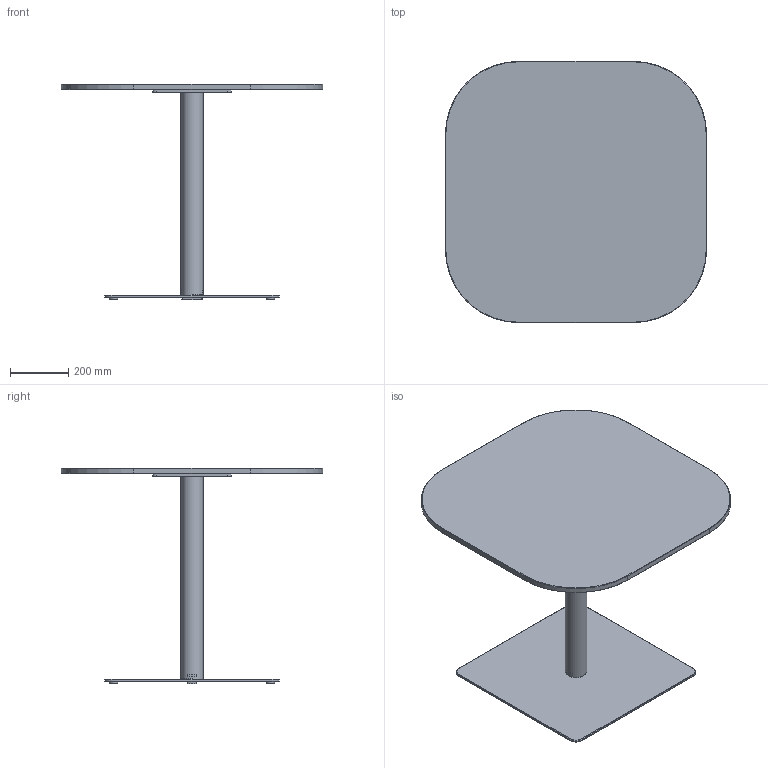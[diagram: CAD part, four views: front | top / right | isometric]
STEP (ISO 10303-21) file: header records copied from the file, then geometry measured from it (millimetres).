
FILE_DESCRIPTION( ('This file contains a STEP AP42 implementation' ,'as created by ZW3D STEP Interface translator.') ,'2;1' );
FILE_NAME( 'Henri - B_Carré - F2 - M1 - 900 x 900 x 750.stp' ,'24 912.163638', (''), ('ZWCAD Software Co.'), 'Version 1.0', 'ZW3D to STEP translator', '' );
FILE_SCHEMA(('AUTOMOTIVE_DESIGN { 1 0 10303 214 1 1 1 1 }'));
Length unit declared in the file: millimetre
Products named in the file (14): 0; PIED BISTROT PARAMETRIQUE_; COLONNE ACIER Ø76 V.02_; TUB-D076-02_; PLA-R76B-01_; CROIX ACIER 370 V.02_; CRX-X370-02_; SOCLE ACIER L 600x600 V.02_; SCL-R600-02_; PLA-R30A-01_; PLA-R30A-01; WUERTH 0276063020 Euro-screw 6.3x2 Verzinkt_; PLATEAU BISTROT PARAMETRIQUE_; insert_m6_13_
Assembly tree (22 placements, depth 3):
  0
  PIED BISTROT PARAMETRIQUE_
    COLONNE ACIER Ø76 V.02_
      TUB-D076-02_
      PLA-R76B-01_  x2
    CROIX ACIER 370 V.02_
      CRX-X370-02_
    SOCLE ACIER L 600x600 V.02_
      SCL-R600-02_
      PLA-R30A-01_
      PLA-R30A-01  x3
    WUERTH 0276063020 Euro-screw 6.3x2 Verzinkt_
    PLATEAU BISTROT PARAMETRIQUE_
      insert_m6_13_  x8
Bounding box: 900 x 900 x 744 mm (x, y, z)
Volume: 18931089.9 mm3; surface area: 2826941 mm2
Topology: 19 solids, 19 shells, 537 faces, 1310 edges, 822 vertices
Faces by surface type: plane 262, bspline 121, cylinder 98, cone 55, torus 1
Full cylindrical faces by diameter (mm): 4.88 x1, 6 x8, 6.3 x1, 8 x45, 12 x2, 14 x2, 30 x4, 72 x1, 76 x1
Entity records: 12310 total; most frequent: CARTESIAN_POINT 3396, ORIENTED_EDGE 1624, DIRECTION 1519, EDGE_CURVE 812, VERTEX_POINT 518, VECTOR 513, LINE 513, AXIS2_PLACEMENT_3D 503
